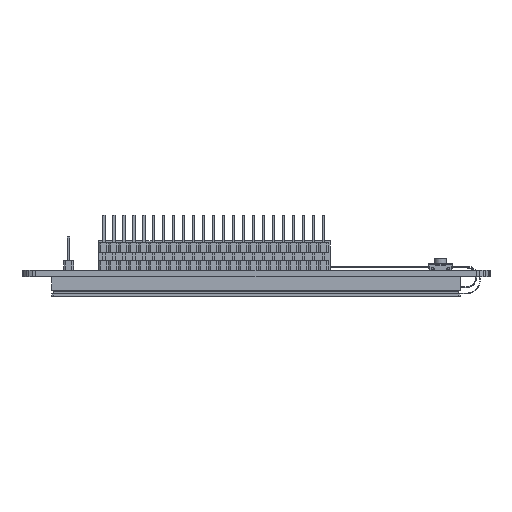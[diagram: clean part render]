
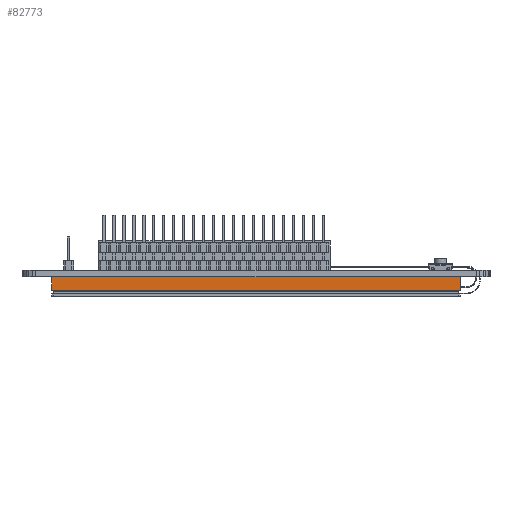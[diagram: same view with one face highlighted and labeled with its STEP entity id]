
A CAD part, left-side view. The second image highlights one B-rep face of the part: STEP entity #82773.
In plain terms, the highlighted planar face has unit normal (-1, 0, 0) as drawn and (1, 0, 0) by its records, which use the part's own axes.
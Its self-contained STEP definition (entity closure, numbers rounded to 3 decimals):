
#7136 = VECTOR ( 'NONE', #47419, 1000. ) ;
#7182 = EDGE_CURVE ( 'NONE', #59658, #13054, #71947, .T. ) ;
#10725 = CARTESIAN_POINT ( 'NONE',  ( -1.211, 31.978, 37.759 ) ) ;
#13054 = VERTEX_POINT ( 'NONE', #126506 ) ;
#19364 = DIRECTION ( 'NONE',  ( 0., 1., 0. ) ) ;
#24645 = DIRECTION ( 'NONE',  ( 0., 0., -1. ) ) ;
#37999 = PLANE ( 'NONE',  #86830 ) ;
#39557 = EDGE_CURVE ( 'NONE', #145433, #155541, #129943, .T. ) ;
#43101 = EDGE_CURVE ( 'NONE', #155541, #59658, #117278, .T. ) ;
#47419 = DIRECTION ( 'NONE',  ( 0., 0., -1. ) ) ;
#53897 = VECTOR ( 'NONE', #133718, 1000. ) ;
#59658 = VERTEX_POINT ( 'NONE', #87842 ) ;
#67941 = DIRECTION ( 'NONE',  ( 0., -1., 0. ) ) ;
#71947 = LINE ( 'NONE', #170844, #173351 ) ;
#82773 = ADVANCED_FACE ( 'NONE', ( #87088 ), #37999, .T. ) ;
#86830 = AXIS2_PLACEMENT_3D ( 'NONE', #10725, #107414, #24645 ) ;
#87088 = FACE_OUTER_BOUND ( 'NONE', #112326, .T. ) ;
#87842 = CARTESIAN_POINT ( 'NONE',  ( -1.211, 31.978, -66.241 ) ) ;
#88488 = ORIENTED_EDGE ( 'NONE', *, *, #7182, .T. ) ;
#90674 = LINE ( 'NONE', #174765, #53897 ) ;
#93372 = EDGE_CURVE ( 'NONE', #13054, #145433, #90674, .T. ) ;
#97632 = ORIENTED_EDGE ( 'NONE', *, *, #39557, .T. ) ;
#102395 = CARTESIAN_POINT ( 'NONE',  ( -1.211, 31.978, -14.241 ) ) ;
#102533 = ORIENTED_EDGE ( 'NONE', *, *, #43101, .T. ) ;
#107414 = DIRECTION ( 'NONE',  ( 1., 0., 0. ) ) ;
#112326 = EDGE_LOOP ( 'NONE', ( #88488, #155006, #97632, #102533 ) ) ;
#117278 = LINE ( 'NONE', #102395, #7136 ) ;
#126506 = CARTESIAN_POINT ( 'NONE',  ( -1.211, 35.478, -66.241 ) ) ;
#129943 = LINE ( 'NONE', #164518, #166668 ) ;
#133718 = DIRECTION ( 'NONE',  ( 0., 0., 1. ) ) ;
#145433 = VERTEX_POINT ( 'NONE', #152375 ) ;
#150475 = CARTESIAN_POINT ( 'NONE',  ( -1.211, 31.978, 37.759 ) ) ;
#152375 = CARTESIAN_POINT ( 'NONE',  ( -1.211, 35.478, 37.759 ) ) ;
#155006 = ORIENTED_EDGE ( 'NONE', *, *, #93372, .T. ) ;
#155541 = VERTEX_POINT ( 'NONE', #150475 ) ;
#164518 = CARTESIAN_POINT ( 'NONE',  ( -1.211, 31.978, 37.759 ) ) ;
#166668 = VECTOR ( 'NONE', #67941, 1000. ) ;
#170844 = CARTESIAN_POINT ( 'NONE',  ( -1.211, 31.978, -66.241 ) ) ;
#173351 = VECTOR ( 'NONE', #19364, 1000. ) ;
#174765 = CARTESIAN_POINT ( 'NONE',  ( -1.211, 35.478, 37.759 ) ) ;
